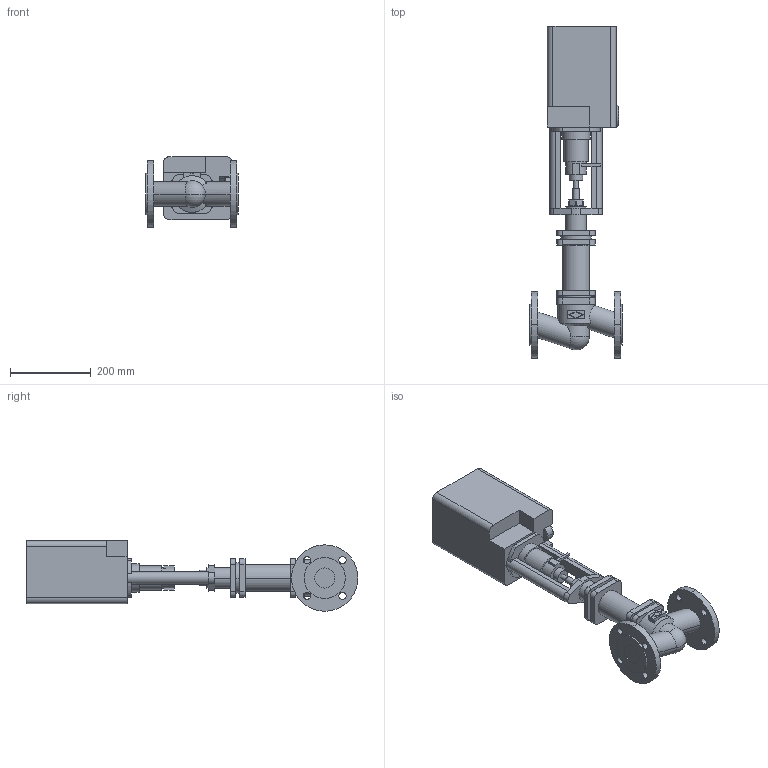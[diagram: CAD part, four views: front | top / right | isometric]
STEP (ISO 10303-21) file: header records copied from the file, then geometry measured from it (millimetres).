
FILE_DESCRIPTION(('CoCreate Modeling STEP Export'),'2;1');
FILE_NAME('c000004804.stp','2011-10-11T11:22:29',(''),(''),'CoCreate Modeling STEP processor for AP214 (Solid Model)','CoCreate Modeling 17.0 01-Apr-2010 (C) Parametric Technology GmbH','');
FILE_SCHEMA(('AUTOMOTIVE_DESIGN { 1 0 10303 214 1 1 1 1 }'));
Length unit declared in the file: millimetre
Products named in the file (2): 1; 2
Bounding box: 230 x 824.5 x 175 mm (x, y, z)
Volume: 9863769.6 mm3; surface area: 552717.1 mm2
Topology: 2 solids, 2 shells, 226 faces, 572 edges, 378 vertices
Faces by surface type: plane 109, cylinder 105, sphere 6, torus 4, cone 2
Entity records: 8439 total; most frequent: CARTESIAN_POINT 1342, ORIENTED_EDGE 1140, DIRECTION 1028, EDGE_CURVE 570, VERTEX_POINT 378, AXIS2_PLACEMENT_3D 357, VECTOR 314, LINE 314
